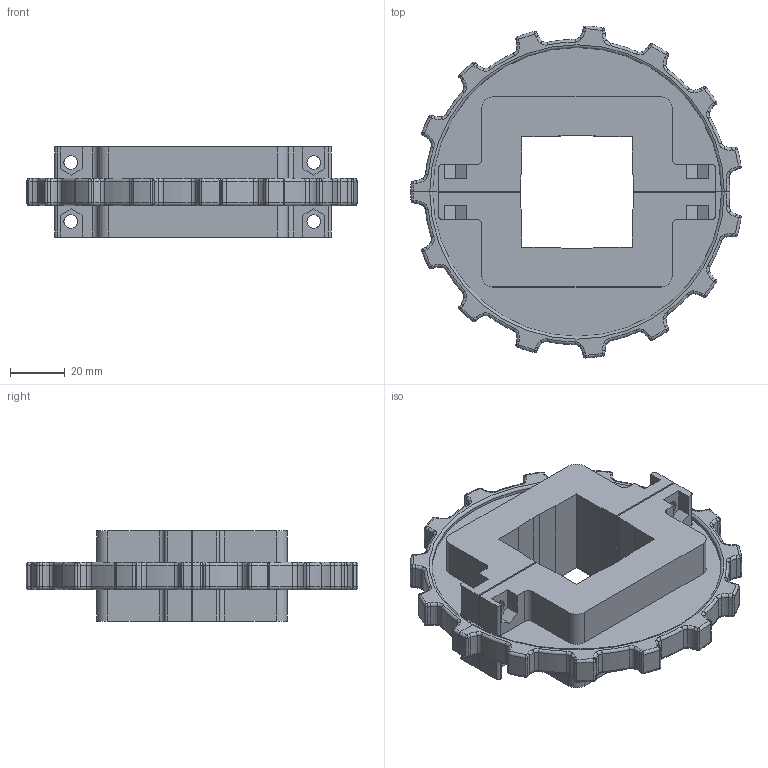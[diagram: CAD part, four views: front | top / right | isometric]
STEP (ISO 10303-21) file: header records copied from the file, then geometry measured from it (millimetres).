
FILE_DESCRIPTION(/* description */ (''),/* implementation_level */ '2;1');
FILE_NAME(/* name */ 'HS-502A-HD-DK-15T.stp',/* time_stamp */ '2023-02-06T11:31:03+08:00',/* author */ (''),/* organization */ (''),/* preprocessor_version */ 'ST-DEVELOPER v15',/* originating_system */ 'SIEMENS PLM Software NX 8.5',/* authorisation */ '');
FILE_SCHEMA (('AP203_CONFIGURATION_CONTROLLED_3D_DESIGN_OF_MECHANICAL_PARTS_AND_ASSEMBLIES_MIM_LF { 1 0 10303 403 2 1 2}'));
Length unit declared in the file: millimetre
Products named in the file (1): Admi2504EE77mtux
Bounding box: 120.77 x 121.34 x 33 mm (x, y, z)
Volume: 156510.4 mm3; surface area: 42031.7 mm2
Topology: 2 solids, 2 shells, 622 faces, 1558 edges, 880 vertices
Faces by surface type: cylinder 226, torus 188, plane 148, bspline 60
Full cylindrical faces by diameter (mm): 5.018 x8
Entity records: 21433 total; most frequent: CARTESIAN_POINT 6885, DIRECTION 3208, ORIENTED_EDGE 2972, EDGE_CURVE 1486, AXIS2_PLACEMENT_3D 1279, VERTEX_POINT 876, CIRCLE 708, LINE 650
